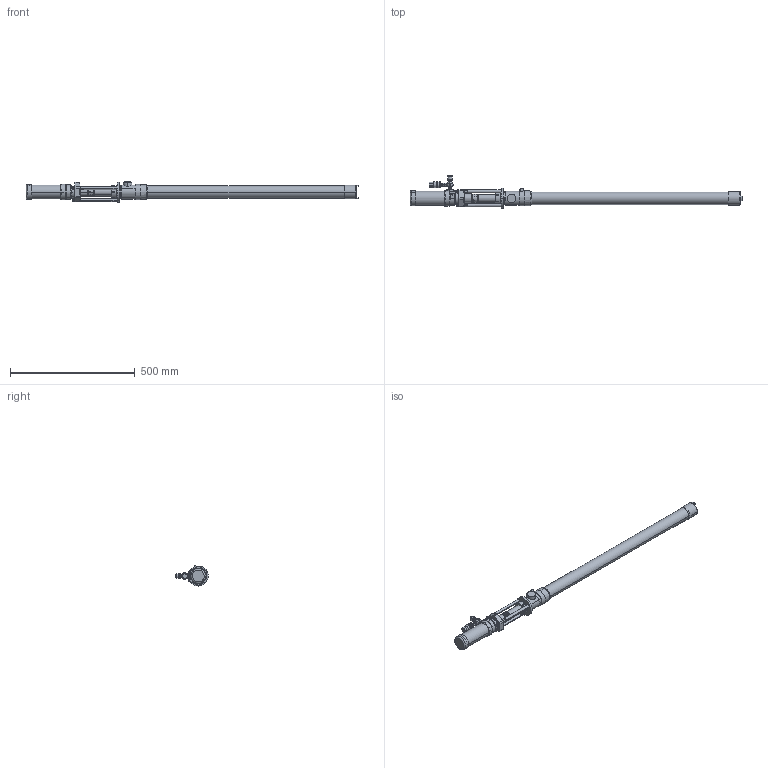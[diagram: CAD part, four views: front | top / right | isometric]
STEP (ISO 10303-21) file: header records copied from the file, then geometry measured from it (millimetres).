
FILE_DESCRIPTION((''),'2;1');
FILE_NAME('226953-EN-ZAC_PRT','2019-12-31T16:04:00',('qusrh3'),(''),'CREO PARAMETRIC BY PTC INC, 2019030','CREO PARAMETRIC BY PTC INC, 2019030','');
FILE_SCHEMA(('CONFIG_CONTROL_DESIGN'));
Length unit declared in the file: inch
Products named in the file (1): 226953-EN-ZAC_PRT
Bounding box: 1328.52 x 130.59 x 80.08 mm (x, y, z)
Surface area: 352635 mm2 (no closed solid volume)
Topology: 0 solids, 100 shells, 462 faces, 1369 edges, 934 vertices
Faces by surface type: plane 170, cylinder 169, cone 100, torus 11, bspline 6, sphere 6
Entity records: 16508 total; most frequent: CARTESIAN_POINT 4668, DIRECTION 2575, ORIENTED_EDGE 2086, EDGE_CURVE 1369, AXIS2_PLACEMENT_3D 998, VERTEX_POINT 934, VECTOR 579, LINE 579
